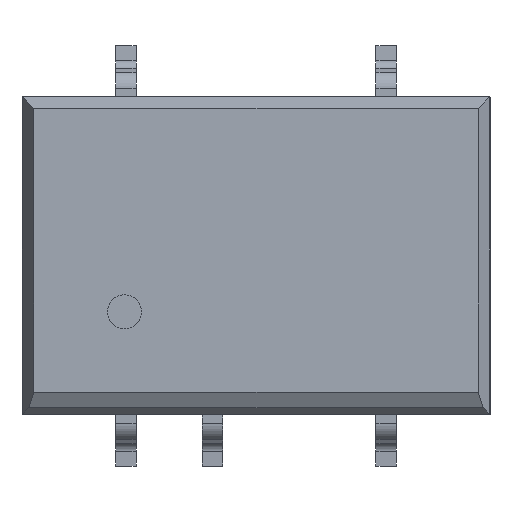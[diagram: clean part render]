
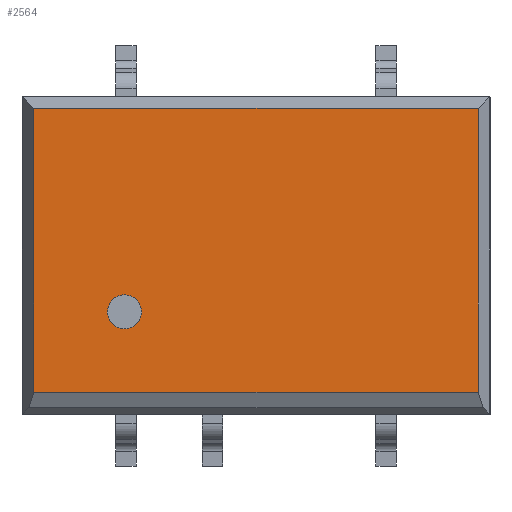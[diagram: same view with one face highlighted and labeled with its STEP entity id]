
A CAD part, top view. The second image highlights one B-rep face of the part: STEP entity #2564.
In plain terms, the highlighted planar face has unit normal (0, 0, 1) as drawn and (0, 0, -1) by its records, which use the part's own axes.
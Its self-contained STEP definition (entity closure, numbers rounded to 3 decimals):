
#40=FACE_BOUND('',#380,.T.);
#87=CIRCLE('',#2746,0.5);
#229=FACE_OUTER_BOUND('',#379,.T.);
#379=EDGE_LOOP('',(#2157,#2158,#2159,#2160));
#380=EDGE_LOOP('',(#2161));
#652=LINE('',#4037,#947);
#656=LINE('',#4046,#951);
#662=LINE('',#4058,#957);
#665=LINE('',#4063,#960);
#947=VECTOR('',#3334,13.007);
#951=VECTOR('',#3342,8.307);
#957=VECTOR('',#3352,13.007);
#960=VECTOR('',#3357,8.307);
#1185=VERTEX_POINT('',#4030);
#1188=VERTEX_POINT('',#4035);
#1191=VERTEX_POINT('',#4045);
#1195=VERTEX_POINT('',#4057);
#1197=VERTEX_POINT('',#4064);
#1510=EDGE_CURVE('',#1188,#1185,#652,.T.);
#1514=EDGE_CURVE('',#1185,#1191,#656,.T.);
#1520=EDGE_CURVE('',#1191,#1195,#662,.T.);
#1523=EDGE_CURVE('',#1195,#1188,#665,.T.);
#1524=EDGE_CURVE('',#1197,#1197,#87,.T.);
#2157=ORIENTED_EDGE('',*,*,#1510,.F.);
#2158=ORIENTED_EDGE('',*,*,#1523,.F.);
#2159=ORIENTED_EDGE('',*,*,#1520,.F.);
#2160=ORIENTED_EDGE('',*,*,#1514,.F.);
#2161=ORIENTED_EDGE('',*,*,#1524,.T.);
#2331=PLANE('',#2745);
#2564=ADVANCED_FACE('',(#229,#40),#2331,.F.);
#2745=AXIS2_PLACEMENT_3D('',#4062,#3355,#3356);
#2746=AXIS2_PLACEMENT_3D('',#4065,#3358,#3359);
#3334=DIRECTION('',(1.,0.,0.));
#3342=DIRECTION('',(0.,1.,0.));
#3352=DIRECTION('',(-1.,0.,0.));
#3355=DIRECTION('center_axis',(0.,0.,1.));
#3356=DIRECTION('ref_axis',(1.,0.,0.));
#3357=DIRECTION('',(0.,-1.,0.));
#3358=DIRECTION('center_axis',(0.,0.,1.));
#3359=DIRECTION('ref_axis',(-1.,0.,0.));
#4030=CARTESIAN_POINT('',(6.504,-4.004,0.));
#4035=CARTESIAN_POINT('',(-6.504,-4.004,0.));
#4037=CARTESIAN_POINT('',(1.713,-4.004,0.));
#4045=CARTESIAN_POINT('',(6.504,4.304,0.));
#4046=CARTESIAN_POINT('',(6.504,2.325,0.));
#4057=CARTESIAN_POINT('',(-6.504,4.304,0.));
#4058=CARTESIAN_POINT('',(-3.425,4.304,0.));
#4062=CARTESIAN_POINT('Origin',(0.,0.,0.));
#4063=CARTESIAN_POINT('',(-6.504,-2.325,0.));
#4064=CARTESIAN_POINT('',(3.35,-1.65,0.));
#4065=CARTESIAN_POINT('Origin',(3.85,-1.65,0.));
